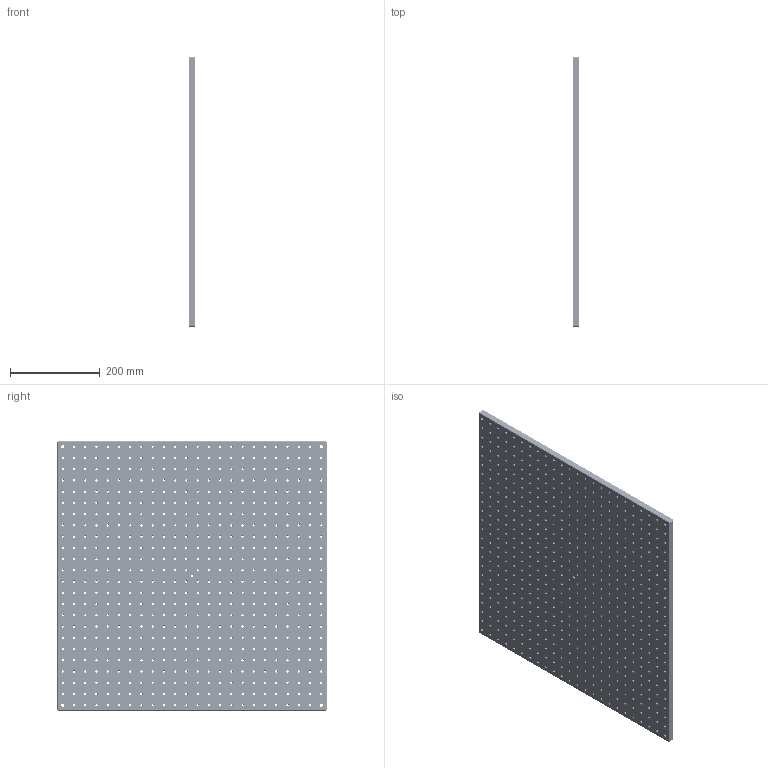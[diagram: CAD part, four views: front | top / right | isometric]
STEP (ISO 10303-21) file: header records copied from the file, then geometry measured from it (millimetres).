
FILE_DESCRIPTION(/* description */ (''),/* implementation_level */ '2;1');
FILE_NAME(/* name */ 'U:\KONSTRUKTORIAI\DOKUMENTACIJA\1\1B-ALE\1B-ALE-60-60-015\step\1B-ALE-60-60-015.stp',/* time_stamp */ '2016-06-15T08:16:14+03:00',/* author */ ('dsgn31'),/* organization */ (''),/* preprocessor_version */ 'ST-DEVELOPER v15.2',/* originating_system */ 'Autodesk Inventor 2014',/* authorisation */ '');
FILE_SCHEMA (('AUTOMOTIVE_DESIGN { 1 0 10303 214 3 1 1 }'));
Length unit declared in the file: millimetre
Products named in the file (1): 1B-ALE-60-60-015.01
Bounding box: 15 x 600 x 600 mm (x, y, z)
Volume: 5228781.8 mm3; surface area: 862720.5 mm2
Topology: 1 solids, 1 shells, 1749 faces, 4646 edges, 2904 vertices
Faces by surface type: cone 1144, cylinder 582, plane 23
Full cylindrical faces by diameter (mm): 4.917 x572, 6.5 x5, 11 x5
Entity records: 43199 total; most frequent: DIRECTION 8156, CARTESIAN_POINT 6430, ORIENTED_EDGE 4696, EDGE_LOOP 4634, AXIS2_PLACEMENT_3D 4058, FACE_BOUND 2887, EDGE_CURVE 2348, VERTEX_POINT 2332
